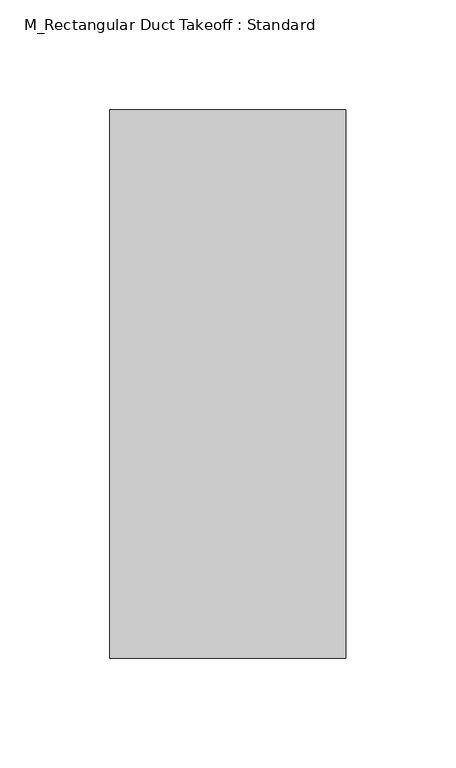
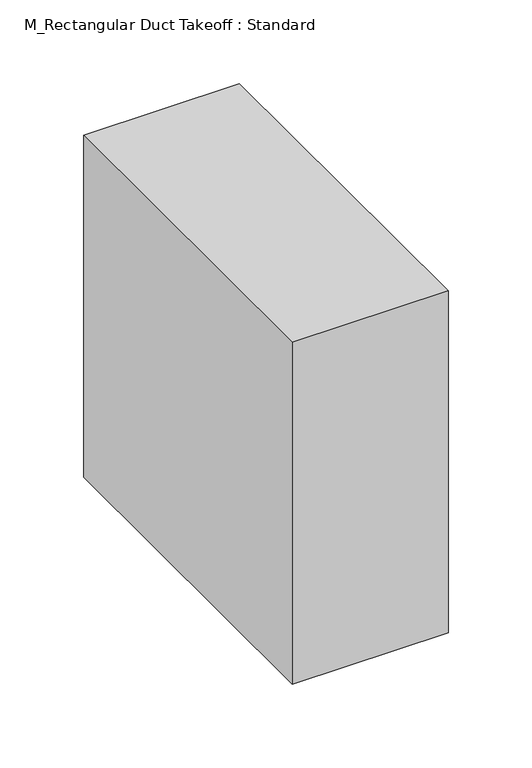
"""IFC4 building model written with IfcOpenShell, lengths in millimetres: duct fitting geometry, M_Rectangular Duct Takeoff : Standard."""

import ifcopenshell
import ifcopenshell.guid

model = None  # the IFC model being written
_history = None  # IfcOwnerHistory: only IFC2X3 demands one
_inside = {}  # id of a spatial element -> (the spatial element, [elements in it])
_under = {}  # id of a project, library or spatial element -> (it, [spatial elements below it])
_declared = {}  # id of a project -> (the project, [libraries it declares])
_typed = {}  # id of a type object -> (the type object, [elements of that type])
_made_of = {}  # id of a material, layer set ... -> (it, [elements and type objects made of it])


def new_model(schema):
    """Start an empty IFC model of exactly this schema.

    Asked for "IFC4X3", IfcOpenShell would pick the latest addendum, in which some entities
    have other attributes; the version numbers below select the first issue.
    IFC2X3 requires an IfcOwnerHistory on every rooted entity: one is made here for all.
    """
    global model, _history
    if schema == "IFC4X3":
        model = ifcopenshell.file(schema_version=(4, 3, 0, 0))
    else:
        model = ifcopenshell.file(schema=schema)
    _inside.clear()
    _under.clear()
    _declared.clear()
    _typed.clear()
    _made_of.clear()
    _history = None
    if model.schema == "IFC2X3":
        org = make("IfcOrganization", Name="unknown")
        user = make(
            "IfcPersonAndOrganization",
            ThePerson=make("IfcPerson", FamilyName="unknown"),
            TheOrganization=org,
        )
        app = make(
            "IfcApplication",
            ApplicationDeveloper=org,
            Version="unknown",
            ApplicationFullName="unknown",
            ApplicationIdentifier="unknown",
        )
        _history = make(
            "IfcOwnerHistory",
            OwningUser=user,
            OwningApplication=app,
            ChangeAction="ADDED",
            CreationDate=0,
        )
    return model


def make(cls, **values):
    """One entity of the class cls with the attributes given. An attribute that is None is left unset."""
    return model.create_entity(
        cls, **{name: value for name, value in values.items() if value is not None}
    )


def rooted(cls, **values):
    """An entity with a GlobalId (a new one), such as an element, a storey or a relation."""
    return make(cls, GlobalId=ifcopenshell.guid.new(), OwnerHistory=_history, **values)


def si_unit(unit_type, name, prefix=None):
    """IfcSIUnit, for example si_unit("LENGTHUNIT", "METRE", prefix="MILLI")."""
    return make("IfcSIUnit", UnitType=unit_type, Prefix=prefix, Name=name)


def assignment(units):
    """IfcUnitAssignment: the units of a project."""
    return None if units is None else make("IfcUnitAssignment", Units=units)


def point(xyz):
    """IfcCartesianPoint."""
    return None if xyz is None else make("IfcCartesianPoint", Coordinates=xyz)


def direction(xyz):
    """IfcDirection."""
    return None if xyz is None else make("IfcDirection", DirectionRatios=xyz)


def frame(location, z_axis=None, x_axis=None):
    """IfcAxis2Placement3D, a coordinate frame: its origin and axes. An axis left out is left unset."""
    return make(
        "IfcAxis2Placement3D",
        Location=point(location),
        Axis=direction(z_axis),
        RefDirection=direction(x_axis),
    )


def origin():
    """The frame at (0, 0, 0) with its axes left unset."""
    return frame((0.0, 0.0, 0.0))


def place(relative_to, where):
    """IfcLocalPlacement: puts the frame where relative to a parent placement (None: the world)."""
    return make(
        "IfcLocalPlacement", PlacementRelTo=relative_to, RelativePlacement=where
    )


def context(
    kind, dimensions, precision=None, world=None, true_north=None, identifier=None
):
    """IfcGeometricRepresentationContext, for example the 3D "Model" context."""
    return make(
        "IfcGeometricRepresentationContext",
        ContextIdentifier=identifier,
        ContextType=kind,
        CoordinateSpaceDimension=dimensions,
        Precision=precision,
        WorldCoordinateSystem=world,
        TrueNorth=true_north,
    )


def project(units=None, contexts=None):
    """IfcProject with its units and contexts."""
    return rooted(
        "IfcProject",
        Name="project",
        RepresentationContexts=contexts,
        UnitsInContext=assignment(units),
    )


def spatial(cls, under=None, at=None, **own):
    """A site, building, storey or space (cls), placed at a placement, below another one or the project."""
    s = rooted(cls, ObjectPlacement=at, **own)
    if under is not None:
        _under.setdefault(under.id(), (under, []))[1].append(s)
    return s


def polyline(points):
    """IfcPolyline through the points."""
    return make("IfcPolyline", Points=[point(p) for p in points])


def outline(outer, holes=None, kind="AREA"):
    """IfcArbitraryClosedProfileDef: a profile drawn as a closed curve; with holes, ...WithVoids."""
    if holes is None:
        return make("IfcArbitraryClosedProfileDef", ProfileType=kind, OuterCurve=outer)
    return make(
        "IfcArbitraryProfileDefWithVoids",
        ProfileType=kind,
        OuterCurve=outer,
        InnerCurves=holes,
    )


def extrude(swept, where, along, depth):
    """IfcExtrudedAreaSolid: the profile swept, set in the frame where, extruded along a direction by depth."""
    return make(
        "IfcExtrudedAreaSolid",
        SweptArea=swept,
        Position=where,
        ExtrudedDirection=direction(along),
        Depth=depth,
    )


def shape(context_of_items, identifier, shape_type, items):
    """IfcShapeRepresentation: the items that make up one representation, for example the "Body"."""
    return make(
        "IfcShapeRepresentation",
        ContextOfItems=context_of_items,
        RepresentationIdentifier=identifier,
        RepresentationType=shape_type,
        Items=items,
    )


def source(mapping_origin, context_of_items, identifier, shape_type, items):
    """IfcRepresentationMap: a shape defined once, which mapped items show again and again."""
    return make(
        "IfcRepresentationMap",
        MappingOrigin=mapping_origin,
        MappedRepresentation=shape(context_of_items, identifier, shape_type, items),
    )


def transform(
    local_origin,
    x_axis=None,
    y_axis=None,
    z_axis=None,
    scale=None,
    scale2=None,
    scale3=None,
    uniform=True,
):
    """IfcCartesianTransformationOperator3D, or its non-uniform kind. x_axis, y_axis, z_axis: its Axis1, 2, 3."""
    if uniform:
        return make(
            "IfcCartesianTransformationOperator3D",
            Axis1=direction(x_axis),
            Axis2=direction(y_axis),
            LocalOrigin=point(local_origin),
            Scale=scale,
            Axis3=direction(z_axis),
        )
    return make(
        "IfcCartesianTransformationOperator3DnonUniform",
        Axis1=direction(x_axis),
        Axis2=direction(y_axis),
        LocalOrigin=point(local_origin),
        Scale=scale,
        Axis3=direction(z_axis),
        Scale2=scale2,
        Scale3=scale3,
    )


def mapped(mapping_source, mapping_target):
    """IfcMappedItem: shows the shape of a source again, moved by a transform."""
    return make(
        "IfcMappedItem", MappingSource=mapping_source, MappingTarget=mapping_target
    )


def made_of(thing, what):
    """Note that an element or type object is made of a material, layer set ...; save() writes the relation."""
    if what is not None:
        _made_of.setdefault(what.id(), (what, []))[1].append(thing)
    return thing


def element(
    cls,
    number,
    at=None,
    inside=None,
    cuts=None,
    type_object=None,
    material=None,
    context=None,
    identifier="Body",
    shape_type=None,
    held_by="IfcProductDefinitionShape",
    body=None,
    shapes=None,
    **own,
):
    """One element of the class cls, such as IfcWall. Its Tag is "e" and its number.

    at: its placement. inside: the storey or other place that contains it. cuts: it is an
    opening in that element (IfcRelVoidsElement). A single representation is given by context,
    identifier, shape_type and body (its items); several are given by shapes. held_by: the class
    of the entity that holds the representations. save() writes the other relations.
    """
    e = rooted(cls, Tag="e%d" % number, ObjectPlacement=at, **own)
    if body is not None:
        shapes = [shape(context, identifier, shape_type, body)]
    if shapes is not None:
        e.Representation = make(held_by, Representations=shapes)
    if inside is not None:
        _inside.setdefault(inside.id(), (inside, []))[1].append(e)
    if cuts is not None:
        rooted(
            "IfcRelVoidsElement", RelatingBuildingElement=cuts, RelatedOpeningElement=e
        )
    if type_object is not None:
        _typed.setdefault(type_object.id(), (type_object, []))[1].append(e)
    return made_of(e, material)


def aggregate(whole, parts):
    """IfcRelAggregates: a whole, such as a stair, and the parts it consists of."""
    return rooted("IfcRelAggregates", RelatingObject=whole, RelatedObjects=parts)


def save(model, path):
    """Write the relations noted so far, then the file.

    IfcRelAggregates (storeys below a building ...), IfcRelContainedInSpatialStructure (elements
    in a storey), IfcRelDefinesByType, IfcRelAssociatesMaterial and IfcRelDeclares: one each for
    every whole, place, type object, material and project.
    """
    for whole, parts in _under.values():
        aggregate(whole, parts)
    for where, things in _inside.values():
        rooted(
            "IfcRelContainedInSpatialStructure",
            RelatedElements=things,
            RelatingStructure=where,
        )
    for kind, things in _typed.values():
        rooted("IfcRelDefinesByType", RelatedObjects=things, RelatingType=kind)
    for what, things in _made_of.values():
        rooted("IfcRelAssociatesMaterial", RelatedObjects=things, RelatingMaterial=what)
    for by, libraries in _declared.values():
        rooted("IfcRelDeclares", RelatingContext=by, RelatedDefinitions=libraries)
    model.write(path)


def m_rectangular_duct_takeoff_standard_e76cbc94(model_context):
    return source(origin(), model_context, "Body", "SweptSolid", [
        extrude(outline(polyline([(-6.096, 125.0), (101.6, 125.0), (101.6, -125.0), (-6.096, -125.0), (-6.096, 125.0)])), frame((0.0, 0.0, -125.0), z_axis=(0.0, 0.0, 1.0), x_axis=(1.0, 0.0, 0.0)), (0.0, 0.0, 1.0), 250.0),
        extrude(outline(polyline([(-6.096, 125.0), (101.6, 125.0), (101.6, -125.0), (-6.096, -125.0), (-6.096, 125.0)])), frame((0.0, 0.0, -125.0), z_axis=(0.0, 0.0, 1.0), x_axis=(1.0, 0.0, 0.0)), (0.0, 0.0, 1.0), 250.0),
        extrude(outline(polyline([(-6.096, 125.0), (101.6, 125.0), (101.6, -125.0), (-6.096, -125.0), (-6.096, 125.0)])), frame((0.0, 0.0, -125.0), z_axis=(0.0, 0.0, 1.0), x_axis=(1.0, 0.0, 0.0)), (0.0, 0.0, 1.0), 250.0),
    ])


if __name__ == "__main__":
    model = new_model("IFC4")
    model_context = context("Model", 3, world=origin())
    ifc_project = project(units=[si_unit("LENGTHUNIT", "METRE", prefix="MILLI")], contexts=[model_context])
    site = spatial("IfcSite", under=ifc_project)
    building = spatial("IfcBuilding", under=site)
    placement = place(None, origin())
    m_rectangular_duct_takeoff_standard_shape = m_rectangular_duct_takeoff_standard_e76cbc94(model_context)
    element("IfcDuctFitting", 1, ObjectType="M_Rectangular Duct Takeoff : Standard", at=placement, inside=building, context=model_context, shape_type="MappedRepresentation", body=[
        mapped(m_rectangular_duct_takeoff_standard_shape, transform((0.0, 0.0, 0.0), x_axis=(1.0, 0.0, 0.0), y_axis=(0.0, 1.0, 0.0), z_axis=(0.0, 0.0, 1.0))),
    ])
    save(model, "model.ifc")
